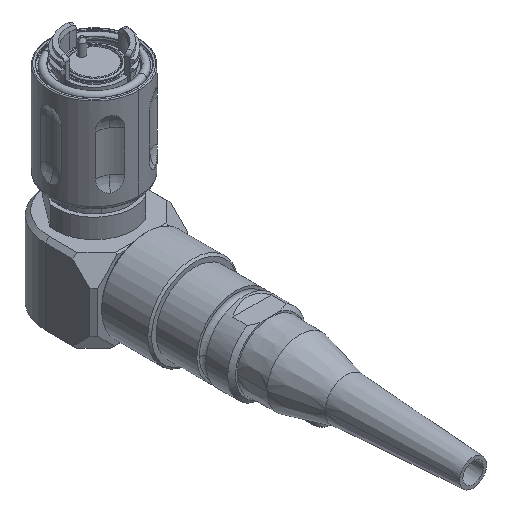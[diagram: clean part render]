
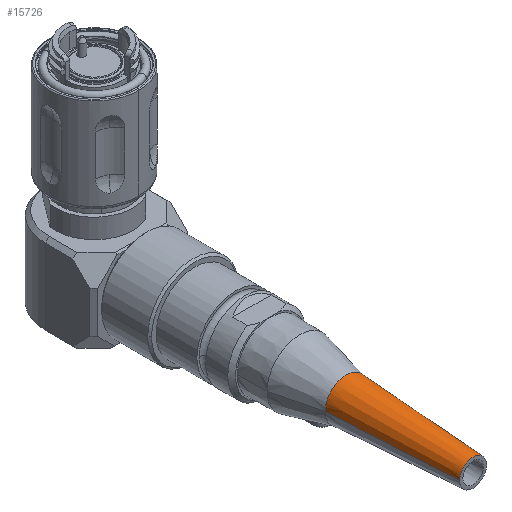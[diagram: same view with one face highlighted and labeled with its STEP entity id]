
A CAD part, isometric view. The second image highlights one B-rep face of the part: STEP entity #15726.
In plain terms, the highlighted conical face has half-angle 3.468 degrees and reference radius 3.5 mm.
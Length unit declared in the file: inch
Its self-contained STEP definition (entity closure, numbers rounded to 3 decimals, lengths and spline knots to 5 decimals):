
#42 = FACE_OUTER_BOUND ( 'NONE', #2147, .T. ) ;
#628 = CARTESIAN_POINT ( 'NONE',  ( -0.1378, -3.87907, -1.883 ) ) ;
#1676 = VERTEX_POINT ( 'NONE', #9794 ) ;
#2037 = AXIS2_PLACEMENT_3D ( 'NONE', #14681, #15882, #3954 ) ;
#2147 = EDGE_LOOP ( 'NONE', ( #15910, #4578, #3869, #12773 ) ) ;
#2591 = DIRECTION ( 'NONE',  ( 1., 0., 0. ) ) ;
#2635 = EDGE_CURVE ( 'NONE', #10287, #15074, #16075, .T. ) ;
#2706 = DIRECTION ( 'NONE',  ( 0., 1., 0. ) ) ;
#2848 = DIRECTION ( 'NONE',  ( 0.06, 0.998, 0. ) ) ;
#2871 = CARTESIAN_POINT ( 'NONE',  ( 0.1378, -3.87907, -1.883 ) ) ;
#3869 = ORIENTED_EDGE ( 'NONE', *, *, #2635, .T. ) ;
#3921 = EDGE_CURVE ( 'NONE', #1676, #10287, #5769, .T. ) ;
#3954 = DIRECTION ( 'NONE',  ( 1., 0., 0. ) ) ;
#4165 = CARTESIAN_POINT ( 'NONE',  ( -0.21654, -2.57986, -1.883 ) ) ;
#4578 = ORIENTED_EDGE ( 'NONE', *, *, #3921, .T. ) ;
#5769 = CIRCLE ( 'NONE', #14675, 0.1378 ) ;
#6037 = LINE ( 'NONE', #628, #7308 ) ;
#6299 = VECTOR ( 'NONE', #2848, 39.37008 ) ;
#7308 = VECTOR ( 'NONE', #7435, 39.37008 ) ;
#7435 = DIRECTION ( 'NONE',  ( -0.06, 0.998, 0. ) ) ;
#7620 = CONICAL_SURFACE ( 'NONE', #2037, 0.1378, 0.061 ) ;
#7657 = VERTEX_POINT ( 'NONE', #4165 ) ;
#9488 = CARTESIAN_POINT ( 'NONE',  ( 0.1378, -3.87907, -1.883 ) ) ;
#9794 = CARTESIAN_POINT ( 'NONE',  ( -0.1378, -3.87907, -1.883 ) ) ;
#9801 = CIRCLE ( 'NONE', #16445, 0.21654 ) ;
#9978 = CARTESIAN_POINT ( 'NONE',  ( 0.21654, -2.57986, -1.883 ) ) ;
#10287 = VERTEX_POINT ( 'NONE', #2871 ) ;
#10538 = CARTESIAN_POINT ( 'NONE',  ( 0., -3.87907, -1.883 ) ) ;
#10653 = DIRECTION ( 'NONE',  ( 1., 0., 0. ) ) ;
#12773 = ORIENTED_EDGE ( 'NONE', *, *, #14154, .F. ) ;
#14154 = EDGE_CURVE ( 'NONE', #7657, #15074, #9801, .T. ) ;
#14675 = AXIS2_PLACEMENT_3D ( 'NONE', #10538, #15825, #2591 ) ;
#14681 = CARTESIAN_POINT ( 'NONE',  ( 0., -3.87907, -1.883 ) ) ;
#14688 = EDGE_CURVE ( 'NONE', #1676, #7657, #6037, .T. ) ;
#14827 = CARTESIAN_POINT ( 'NONE',  ( 0., -2.57986, -1.883 ) ) ;
#15074 = VERTEX_POINT ( 'NONE', #9978 ) ;
#15726 = ADVANCED_FACE ( 'NONE', ( #42 ), #7620, .T. ) ;
#15825 = DIRECTION ( 'NONE',  ( 0., 1., 0. ) ) ;
#15882 = DIRECTION ( 'NONE',  ( 0., 1., 0. ) ) ;
#15910 = ORIENTED_EDGE ( 'NONE', *, *, #14688, .F. ) ;
#16075 = LINE ( 'NONE', #9488, #6299 ) ;
#16445 = AXIS2_PLACEMENT_3D ( 'NONE', #14827, #2706, #10653 ) ;
